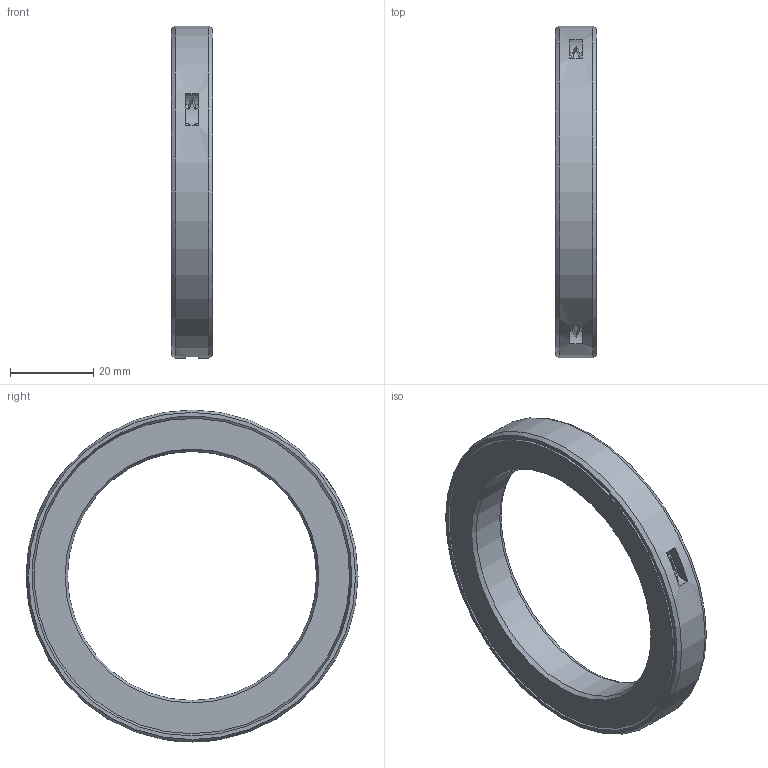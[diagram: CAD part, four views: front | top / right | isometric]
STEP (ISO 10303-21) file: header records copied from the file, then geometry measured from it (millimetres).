
FILE_DESCRIPTION(/* description */ (''),/* implementation_level */ '2;1');
FILE_NAME(/* name */ '301389 M 60x80x10.stp',/* time_stamp */ '2016-12-15T11:39:52+01:00',/* author */ (''),/* organization */ (''),/* preprocessor_version */ 'ST-DEVELOPER v15',/* originating_system */ 'SIEMENS PLM Software NX 8.5',/* authorisation */ '');
FILE_SCHEMA (('CONFIG_CONTROL_DESIGN'));
Length unit declared in the file: millimetre
Products named in the file (1): ATE0000124_01
Bounding box: 10 x 80 x 80 mm (x, y, z)
Volume: 20146.1 mm3; surface area: 13724.7 mm2
Topology: 2 solids, 2 shells, 49 faces, 143 edges, 94 vertices
Faces by surface type: cone 22, plane 16, cylinder 11
Full cylindrical faces by diameter (mm): 60 x1, 80 x1
Entity records: 1626 total; most frequent: CARTESIAN_POINT 396, ORIENTED_EDGE 240, DIRECTION 234, EDGE_CURVE 120, AXIS2_PLACEMENT_3D 114, VERTEX_POINT 84, CIRCLE 66, EDGE_LOOP 64
